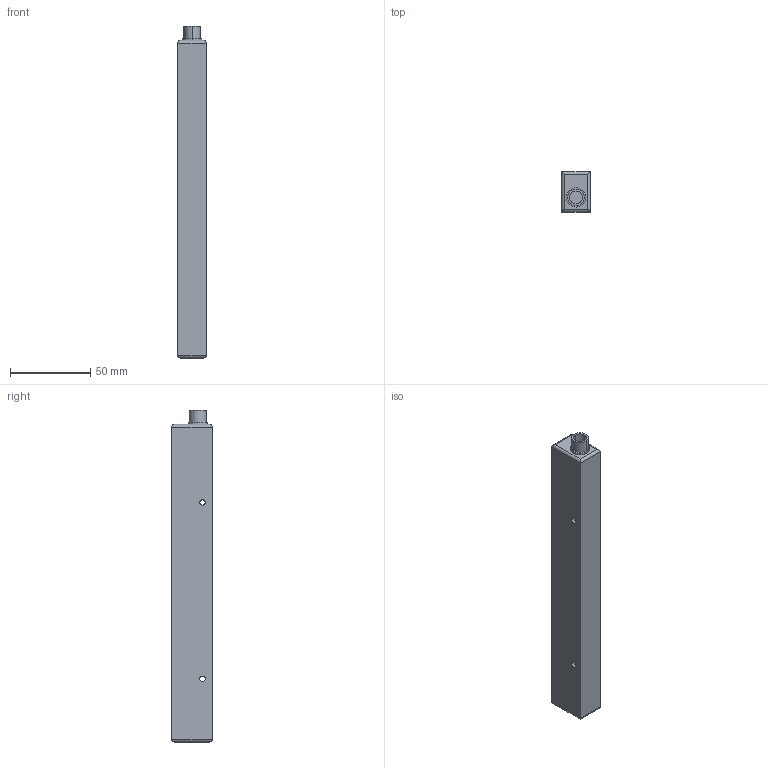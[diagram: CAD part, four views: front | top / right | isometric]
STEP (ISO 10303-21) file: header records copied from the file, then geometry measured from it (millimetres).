
FILE_DESCRIPTION((''),'2;1');
FILE_NAME('ZP200-SENSOR-PACK','2002-07-22T',('FKrakosh'),(''),'PRO/ENGINEER BY PARAMETRIC TECHNOLOGY CORPORATION, 2000420','PRO/ENGINEER BY PARAMETRIC TECHNOLOGY CORPORATION, 2000420','');
FILE_SCHEMA(('CONFIG_CONTROL_DESIGN'));
Length unit declared in the file: millimetre
Products named in the file (1): ZP200-SENSOR-PACK
Bounding box: 17.7 x 25.15 x 207 mm (x, y, z)
Volume: 88170.3 mm3; surface area: 18572.6 mm2
Topology: 1 solids, 1 shells, 27 faces, 58 edges, 36 vertices
Faces by surface type: cylinder 18, plane 9
Entity records: 830 total; most frequent: CARTESIAN_POINT 193, DIRECTION 124, ORIENTED_EDGE 116, EDGE_CURVE 58, AXIS2_PLACEMENT_3D 47, VERTEX_POINT 36, EDGE_LOOP 34, VECTOR 30
